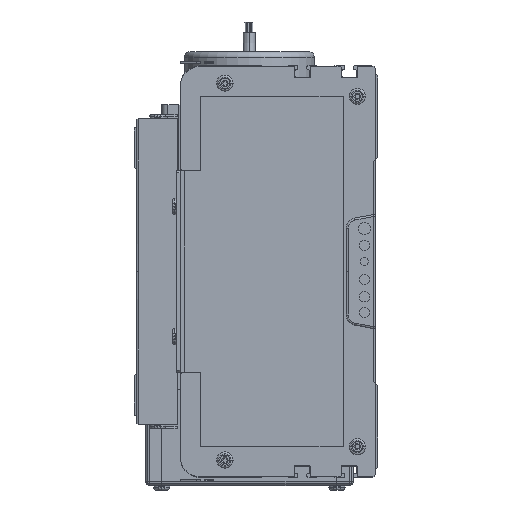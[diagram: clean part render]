
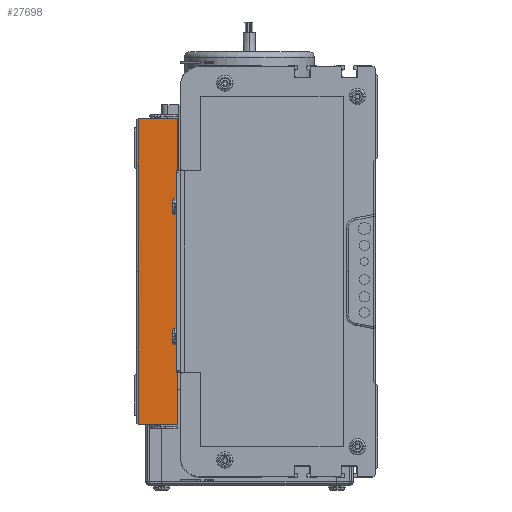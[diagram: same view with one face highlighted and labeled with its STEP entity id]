
A CAD part, left-side view. The second image highlights one B-rep face of the part: STEP entity #27698.
In plain terms, the highlighted planar face has unit normal (-1, 0, 0).
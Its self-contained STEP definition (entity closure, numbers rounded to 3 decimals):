
#27047 = ORIENTED_EDGE ( 'NONE', *, *, #27416, .T. ) ;
#27062 = ORIENTED_EDGE ( 'NONE', *, *, #59554, .T. ) ;
#27116 = EDGE_LOOP ( 'NONE', ( #27766, #27047, #27140, #27340, #27062 ) ) ;
#27130 = VERTEX_POINT ( 'NONE', #65404 ) ;
#27139 = EDGE_CURVE ( 'NONE', #27800, #27130, #65287, .T. ) ;
#27140 = ORIENTED_EDGE ( 'NONE', *, *, #27139, .T. ) ;
#27154 = EDGE_CURVE ( 'NONE', #27130, #59619, #65380, .T. ) ;
#27340 = ORIENTED_EDGE ( 'NONE', *, *, #27154, .T. ) ;
#27416 = EDGE_CURVE ( 'NONE', #59088, #27800, #65848, .T. ) ;
#27698 = ADVANCED_FACE ( 'NONE', ( #65951 ), #65944, .F. ) ;
#27766 = ORIENTED_EDGE ( 'NONE', *, *, #58113, .F. ) ;
#27800 = VERTEX_POINT ( 'NONE', #66178 ) ;
#58113 = EDGE_CURVE ( 'NONE', #59088, #59970, #74637, .T. ) ;
#59088 = VERTEX_POINT ( 'NONE', #75085 ) ;
#59554 = EDGE_CURVE ( 'NONE', #59619, #59970, #75323, .T. ) ;
#59619 = VERTEX_POINT ( 'NONE', #75208 ) ;
#59970 = VERTEX_POINT ( 'NONE', #76131 ) ;
#65285 = CARTESIAN_POINT ( 'NONE',  ( 0., 19., 0. ) ) ;
#65287 = LINE ( 'NONE', #65285, #65408 ) ;
#65298 = CARTESIAN_POINT ( 'NONE',  ( 0., 20., -75. ) ) ;
#65380 = LINE ( 'NONE', #65298, #65528 ) ;
#65404 = CARTESIAN_POINT ( 'NONE',  ( 0., 19., -75. ) ) ;
#65406 = DIRECTION ( 'NONE',  ( 0., 0., -1. ) ) ;
#65408 = VECTOR ( 'NONE', #65406, 1000. ) ;
#65527 = DIRECTION ( 'NONE',  ( 0., -1., 0. ) ) ;
#65528 = VECTOR ( 'NONE', #65527, 1000. ) ;
#65843 = DIRECTION ( 'NONE',  ( 0., 0., -1. ) ) ;
#65844 = VECTOR ( 'NONE', #65843, 1000. ) ;
#65846 = CARTESIAN_POINT ( 'NONE',  ( 0., 19., 0. ) ) ;
#65848 = LINE ( 'NONE', #65846, #65844 ) ;
#65943 = AXIS2_PLACEMENT_3D ( 'NONE', #66070, #65967, #66054 ) ;
#65944 = PLANE ( 'NONE',  #65943 ) ;
#65951 = FACE_OUTER_BOUND ( 'NONE', #27116, .T. ) ;
#65967 = DIRECTION ( 'NONE',  ( 1., 0., 0. ) ) ;
#66054 = DIRECTION ( 'NONE',  ( 0., 0., -1. ) ) ;
#66070 = CARTESIAN_POINT ( 'NONE',  ( 0., 20., 0. ) ) ;
#66178 = CARTESIAN_POINT ( 'NONE',  ( 0., 19., 0. ) ) ;
#74620 = DIRECTION ( 'NONE',  ( 0., -1., 0. ) ) ;
#74622 = CARTESIAN_POINT ( 'NONE',  ( 0., 20., 75. ) ) ;
#74637 = LINE ( 'NONE', #74622, #74706 ) ;
#74706 = VECTOR ( 'NONE', #74620, 1000. ) ;
#75085 = CARTESIAN_POINT ( 'NONE',  ( 0., 19., 75. ) ) ;
#75208 = CARTESIAN_POINT ( 'NONE',  ( 0., 0., -75. ) ) ;
#75307 = DIRECTION ( 'NONE',  ( 0., 0., 1. ) ) ;
#75308 = VECTOR ( 'NONE', #75307, 1000. ) ;
#75309 = CARTESIAN_POINT ( 'NONE',  ( 0., 0., 0. ) ) ;
#75323 = LINE ( 'NONE', #75309, #75308 ) ;
#76131 = CARTESIAN_POINT ( 'NONE',  ( 0., 0., 75. ) ) ;
